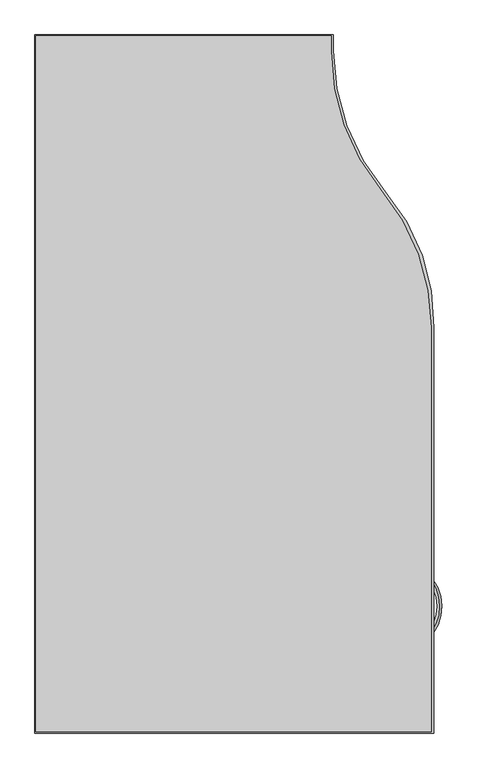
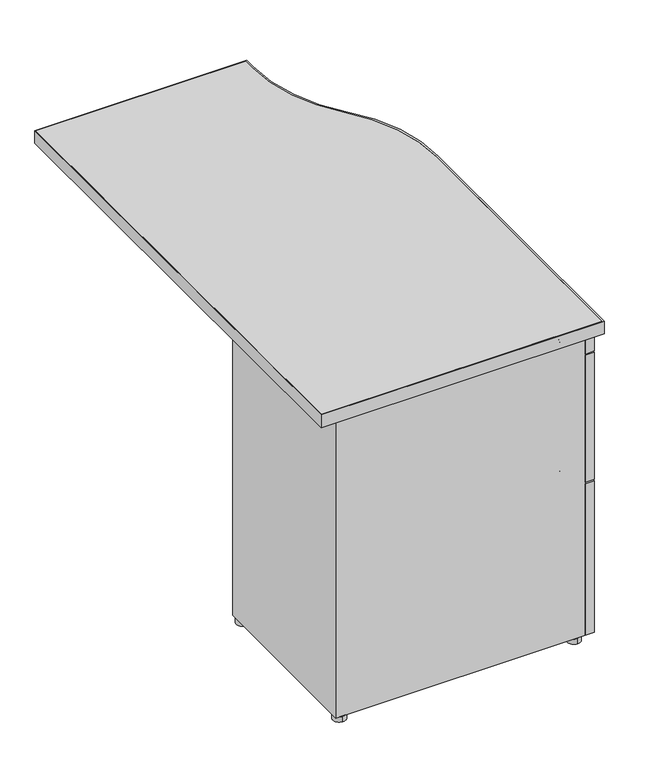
"""IFC4 building model written with IfcOpenShell, lengths in millimetres: furniture geometry, Steelcase - Kick Freestanding - Desk - Single Pedestal Transition Return : 18D x 42W - Left - File/File."""

from ifc_helpers import new_model, si_unit, point, frame, frame_2d, origin, origin_with_axes, place, context, project, spatial, polyline, circle_curve, ellipse_curve, trimmed, segment, composite_curve, outline, extrude, source, transform, mapped, element, save
from ifc_brep_helpers import plane_surface, cylinder_surface, revolved_surface, extruded_surface, advanced_brep


def furniture_2c419365(model_context):
    return source(origin(), model_context, "Body", "SolidModel", [
        advanced_brep(
        [(2760.5907209, -1469.2132511, 586.4818798), (2760.5907209, -1469.2132511, 569.2783404), (2759.9247042, -1370.0632386, 586.4818798), (2759.9247042, -1370.0632386, 569.2783404)],
        [
            (0, 1, ellipse_curve(frame((2760.5907209, -1469.2132511, 577.8801101), z_axis=(-0.7327226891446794, -0.6805273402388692, 0.0), x_axis=(0.0, 0.0, -1.0)), 8.6017697, 3.6448177)),
            (1, 0, ellipse_curve(frame((2760.5907209, -1469.2132511, 577.8801101), z_axis=(-0.7327226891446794, -0.6805273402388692, 0.0), x_axis=(0.0, 0.0, -1.0)), 8.6017697, 3.6448177)),
            (2, 3, ellipse_curve(frame((2759.9247042, -1370.0632386, 577.8801101), z_axis=(-0.7417987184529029, 0.670622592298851, 0.0), x_axis=(0.0, 0.0, -1.0)), 8.6017697, 3.6448177)),
            (3, 2, ellipse_curve(frame((2759.9247042, -1370.0632386, 577.8801101), z_axis=(-0.7417987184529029, 0.670622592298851, 0.0), x_axis=(0.0, 0.0, -1.0)), 8.6017697, 3.6448177)),
            (3, 1, circle_curve(frame((2714.8305889, -1419.9433908, 569.2783404), z_axis=(0.0, 0.0, -1.0), x_axis=(0.6805273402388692, -0.7327226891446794, 0.0)), 67.2421655)),
            (0, 2, circle_curve(frame((2714.8305889, -1419.9433908, 586.4818798), z_axis=(0.0, 0.0, 1.0), x_axis=(0.6805273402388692, -0.7327226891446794, 0.0)), 67.2421655)),
        ],
        [
            plane_surface(frame((2761.3542952, -1470.0353903, 0.0), z_axis=(-0.7327226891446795, -0.6805273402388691, 0.0), x_axis=(0.0, 0.0, 1.0))),
            plane_surface(frame((2760.6771651, -1369.2309157, 0.0), z_axis=(-0.7417987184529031, 0.6706225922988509, 0.0), x_axis=(0.0, 0.0, 1.0))),
            revolved_surface(trimmed(ellipse_curve(frame((2760.5907209, -1469.2132511, 577.8801101), z_axis=(-0.7327226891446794, -0.6805273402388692, 0.0), x_axis=(0.0, 0.0, -1.0)), 8.6017697, 3.6448177), [point((2760.5907209, -1469.2132511, 586.4818798))], [point((2760.5907209, -1469.2132511, 569.2783404))], True, "CARTESIAN"), (2714.8305889, -1419.9433908, 0.0), (0.0, 0.0, 1.0)),
            revolved_surface(trimmed(ellipse_curve(frame((2760.5907209, -1469.2132511, 577.8801101), z_axis=(-0.7327226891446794, -0.6805273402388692, 0.0), x_axis=(0.0, 0.0, -1.0)), 8.6017697, 3.6448177), [point((2760.5907209, -1469.2132511, 569.2783404))], [point((2760.5907209, -1469.2132511, 586.4818798))], True, "CARTESIAN"), (2714.8305889, -1419.9433908, 0.0), (0.0, 0.0, 1.0)),
        ],
        [
            (0, [[1, 2]]),
            (1, [[3, 4]]),
            (2, [[5, -1, 6, -4]]),
            (3, [[-6, -2, -5, -3]]),
        ],
    ),
        advanced_brep(
        [(2760.5907209, -1469.2132511, 293.5881298), (2760.5907209, -1469.2132511, 276.3845904), (2759.9247042, -1370.0632386, 293.5881298), (2759.9247042, -1370.0632386, 276.3845904)],
        [
            (0, 1, ellipse_curve(frame((2760.5907209, -1469.2132511, 284.9863601), z_axis=(-0.7327226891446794, -0.6805273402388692, 0.0), x_axis=(0.0, 0.0, -1.0)), 8.6017697, 3.6448177)),
            (1, 0, ellipse_curve(frame((2760.5907209, -1469.2132511, 284.9863601), z_axis=(-0.7327226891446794, -0.6805273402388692, 0.0), x_axis=(0.0, 0.0, -1.0)), 8.6017697, 3.6448177)),
            (2, 3, ellipse_curve(frame((2759.9247042, -1370.0632386, 284.9863601), z_axis=(-0.7417987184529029, 0.670622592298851, 0.0), x_axis=(0.0, 0.0, -1.0)), 8.6017697, 3.6448177)),
            (3, 2, ellipse_curve(frame((2759.9247042, -1370.0632386, 284.9863601), z_axis=(-0.7417987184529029, 0.670622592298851, 0.0), x_axis=(0.0, 0.0, -1.0)), 8.6017697, 3.6448177)),
            (3, 1, circle_curve(frame((2714.8305889, -1419.9433908, 276.3845904), z_axis=(0.0, 0.0, -1.0), x_axis=(0.6805273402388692, -0.7327226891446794, 0.0)), 67.2421655)),
            (0, 2, circle_curve(frame((2714.8305889, -1419.9433908, 293.5881298), z_axis=(0.0, 0.0, 1.0), x_axis=(0.6805273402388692, -0.7327226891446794, 0.0)), 67.2421655)),
        ],
        [
            plane_surface(frame((2761.3542952, -1470.0353903, 0.0), z_axis=(-0.7327226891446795, -0.6805273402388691, 0.0), x_axis=(0.0, 0.0, 1.0))),
            plane_surface(frame((2760.6771651, -1369.2309157, 0.0), z_axis=(-0.7417987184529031, 0.6706225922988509, 0.0), x_axis=(0.0, 0.0, 1.0))),
            revolved_surface(trimmed(ellipse_curve(frame((2760.5907209, -1469.2132511, 284.9863601), z_axis=(-0.7327226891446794, -0.6805273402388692, 0.0), x_axis=(0.0, 0.0, -1.0)), 8.6017697, 3.6448177), [point((2760.5907209, -1469.2132511, 293.5881298))], [point((2760.5907209, -1469.2132511, 276.3845904))], True, "CARTESIAN"), (2714.8305889, -1419.9433908, 0.0), (0.0, 0.0, 1.0)),
            revolved_surface(trimmed(ellipse_curve(frame((2760.5907209, -1469.2132511, 284.9863601), z_axis=(-0.7327226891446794, -0.6805273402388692, 0.0), x_axis=(0.0, 0.0, -1.0)), 8.6017697, 3.6448177), [point((2760.5907209, -1469.2132511, 276.3845904))], [point((2760.5907209, -1469.2132511, 293.5881298))], True, "CARTESIAN"), (2714.8305889, -1419.9433908, 0.0), (0.0, 0.0, 1.0)),
        ],
        [
            (0, [[1, 2]]),
            (1, [[3, 4]]),
            (2, [[5, -1, 6, -4]]),
            (3, [[-6, -2, -5, -3]]),
        ],
    ),
        advanced_brep(
        [(2762.8455764, -1276.6380273, 671.1566635), (2762.8455764, -1256.3180273, 671.1566635), (2759.7468248, -1276.6380273, 671.1566635), (2759.7468248, -1256.3180273, 671.1566635)],
        [
            (0, 1, circle_curve(frame((2762.8455764, -1266.4780273, 671.1566635), z_axis=(1.0, 0.0, 0.0), x_axis=(0.0, 1.0, 0.0)), 10.16)),
            (1, 0, circle_curve(frame((2762.8455764, -1266.4780273, 671.1566635), z_axis=(1.0, 0.0, 0.0), x_axis=(0.0, 1.0, 0.0)), 10.16)),
            (2, 3, circle_curve(frame((2759.7468248, -1266.4780273, 671.1566635), z_axis=(-1.0, 0.0, 0.0), x_axis=(0.0, 1.0, 0.0)), 10.16)),
            (3, 2, circle_curve(frame((2759.7468248, -1266.4780273, 671.1566635), z_axis=(-1.0, 0.0, 0.0), x_axis=(0.0, 1.0, 0.0)), 10.16)),
            (0, 2),
            (3, 1),
        ],
        [
            plane_surface(frame((2762.8455764, -1256.3180273, 671.1566635), z_axis=(1.0, 0.0, 0.0), x_axis=(0.0, 0.0, 1.0))),
            plane_surface(frame((2759.7468248, -1256.3180273, 671.1566635), z_axis=(-1.0, 0.0, 0.0), x_axis=(0.0, 0.0, -1.0))),
            cylinder_surface(frame((2759.7468248, -1266.4780273, 671.1566635), z_axis=(1.0, 0.0, 0.0), x_axis=(0.0, 1.0, 0.0)), 10.16),
        ],
        [
            (0, [[1, 2]]),
            (1, [[3, 4]]),
            (2, [[-1, 5, -4, 6]]),
            (2, [[-2, -6, -3, -5]]),
        ],
    ),
        advanced_brep(
        [(2762.8455764, -1467.8140492, 589.4466513), (2762.8455764, -1467.8140492, 566.5866513), (2759.7468248, -1467.8140492, 589.4466513), (2759.7468248, -1467.8140492, 566.5866513)],
        [
            (0, 1, ellipse_curve(frame((2762.8455764, -1467.8140492, 578.0166513), z_axis=(1.0, 0.0, 0.0), x_axis=(0.0, 0.0, -1.0)), 11.43, 8.0054005)),
            (1, 0, ellipse_curve(frame((2762.8455764, -1467.8140492, 578.0166513), z_axis=(1.0, 0.0, 0.0), x_axis=(0.0, 0.0, -1.0)), 11.43, 8.0054005)),
            (2, 3, ellipse_curve(frame((2759.7468248, -1467.8140492, 578.0166513), z_axis=(-1.0, 0.0, 0.0), x_axis=(0.0, 0.0, -1.0)), 11.43, 8.0054005)),
            (3, 2, ellipse_curve(frame((2759.7468248, -1467.8140492, 578.0166513), z_axis=(-1.0, 0.0, 0.0), x_axis=(0.0, 0.0, -1.0)), 11.43, 8.0054005)),
            (0, 2),
            (3, 1),
        ],
        [
            plane_surface(frame((2762.8455764, -1256.3180273, 671.1566635), z_axis=(1.0, 0.0, 0.0), x_axis=(0.0, 0.0, 1.0))),
            plane_surface(frame((2759.7468248, -1256.3180273, 671.1566635), z_axis=(-1.0, 0.0, 0.0), x_axis=(0.0, 0.0, -1.0))),
            extruded_surface(trimmed(ellipse_curve(frame((2755.7590248, -1467.8140492, 578.0166513), z_axis=(1.0, 0.0, 0.0), x_axis=(0.0, 0.0, -1.0)), 11.43, 8.0054005), [point((2755.7590248, -1467.8140492, 589.4466513))], [point((2755.7590248, -1467.8140492, 566.5866513))], True, "CARTESIAN"), (3.098751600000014, 0.0, 0.0), 3.098751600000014),
            extruded_surface(trimmed(ellipse_curve(frame((2755.7590248, -1467.8140492, 578.0166513), z_axis=(1.0, 0.0, 0.0), x_axis=(0.0, 0.0, -1.0)), 11.43, 8.0054005), [point((2755.7590248, -1467.8140492, 566.5866513))], [point((2755.7590248, -1467.8140492, 589.4466513))], True, "CARTESIAN"), (3.098751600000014, 0.0, 0.0), 3.098751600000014),
        ],
        [
            (0, [[1, 2]]),
            (1, [[3, 4]]),
            (2, [[-1, 5, -4, 6]]),
            (3, [[-2, -6, -3, -5]]),
        ],
    ),
        advanced_brep(
        [(2762.8455764, -1370.4852323, 589.4466513), (2762.8455764, -1370.4852323, 566.5866513), (2759.7468248, -1370.4852323, 589.4466513), (2759.7468248, -1370.4852323, 566.5866513)],
        [
            (0, 1, ellipse_curve(frame((2762.8455764, -1370.4852323, 578.0166513), z_axis=(1.0, 0.0, 0.0), x_axis=(0.0, 0.0, -1.0)), 11.43, 8.0054005)),
            (1, 0, ellipse_curve(frame((2762.8455764, -1370.4852323, 578.0166513), z_axis=(1.0, 0.0, 0.0), x_axis=(0.0, 0.0, -1.0)), 11.43, 8.0054005)),
            (2, 3, ellipse_curve(frame((2759.7468248, -1370.4852323, 578.0166513), z_axis=(-1.0, 0.0, 0.0), x_axis=(0.0, 0.0, -1.0)), 11.43, 8.0054005)),
            (3, 2, ellipse_curve(frame((2759.7468248, -1370.4852323, 578.0166513), z_axis=(-1.0, 0.0, 0.0), x_axis=(0.0, 0.0, -1.0)), 11.43, 8.0054005)),
            (0, 2),
            (3, 1),
        ],
        [
            plane_surface(frame((2762.8455764, -1256.3180273, 671.1566635), z_axis=(1.0, 0.0, 0.0), x_axis=(0.0, 0.0, 1.0))),
            plane_surface(frame((2759.7468248, -1256.3180273, 671.1566635), z_axis=(-1.0, 0.0, 0.0), x_axis=(0.0, 0.0, -1.0))),
            extruded_surface(trimmed(ellipse_curve(frame((2755.7590248, -1370.4852323, 578.0166513), z_axis=(1.0, 0.0, 0.0), x_axis=(0.0, 0.0, -1.0)), 11.43, 8.0054005), [point((2755.7590248, -1370.4852323, 589.4466513))], [point((2755.7590248, -1370.4852323, 566.5866513))], True, "CARTESIAN"), (3.098751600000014, 0.0, 0.0), 3.098751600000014),
            extruded_surface(trimmed(ellipse_curve(frame((2755.7590248, -1370.4852323, 578.0166513), z_axis=(1.0, 0.0, 0.0), x_axis=(0.0, 0.0, -1.0)), 11.43, 8.0054005), [point((2755.7590248, -1370.4852323, 566.5866513))], [point((2755.7590248, -1370.4852323, 589.4466513))], True, "CARTESIAN"), (3.098751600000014, 0.0, 0.0), 3.098751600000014),
        ],
        [
            (0, [[1, 2]]),
            (1, [[3, 4]]),
            (2, [[-1, 5, -4, 6]]),
            (3, [[-2, -6, -3, -5]]),
        ],
    ),
        advanced_brep(
        [(2762.8455764, -1466.5790775, 296.5864566), (2762.8455764, -1466.5790775, 273.7264566), (2759.7468248, -1466.5790775, 296.5864566), (2759.7468248, -1466.5790775, 273.7264566)],
        [
            (0, 1, ellipse_curve(frame((2762.8455764, -1466.5790775, 285.1564566), z_axis=(1.0, 0.0, 0.0), x_axis=(0.0, 0.0, -1.0)), 11.43, 8.0054005)),
            (1, 0, ellipse_curve(frame((2762.8455764, -1466.5790775, 285.1564566), z_axis=(1.0, 0.0, 0.0), x_axis=(0.0, 0.0, -1.0)), 11.43, 8.0054005)),
            (2, 3, ellipse_curve(frame((2759.7468248, -1466.5790775, 285.1564566), z_axis=(-1.0, 0.0, 0.0), x_axis=(0.0, 0.0, -1.0)), 11.43, 8.0054005)),
            (3, 2, ellipse_curve(frame((2759.7468248, -1466.5790775, 285.1564566), z_axis=(-1.0, 0.0, 0.0), x_axis=(0.0, 0.0, -1.0)), 11.43, 8.0054005)),
            (0, 2),
            (3, 1),
        ],
        [
            plane_surface(frame((2762.8455764, -1256.3180273, 671.1566635), z_axis=(1.0, 0.0, 0.0), x_axis=(0.0, 0.0, 1.0))),
            plane_surface(frame((2759.7468248, -1256.3180273, 671.1566635), z_axis=(-1.0, 0.0, 0.0), x_axis=(0.0, 0.0, -1.0))),
            extruded_surface(trimmed(ellipse_curve(frame((2755.7590248, -1466.5790775, 285.1564566), z_axis=(1.0, 0.0, 0.0), x_axis=(0.0, 0.0, -1.0)), 11.43, 8.0054005), [point((2755.7590248, -1466.5790775, 296.5864566))], [point((2755.7590248, -1466.5790775, 273.7264566))], True, "CARTESIAN"), (3.098751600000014, 0.0, 0.0), 3.098751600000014),
            extruded_surface(trimmed(ellipse_curve(frame((2755.7590248, -1466.5790775, 285.1564566), z_axis=(1.0, 0.0, 0.0), x_axis=(0.0, 0.0, -1.0)), 11.43, 8.0054005), [point((2755.7590248, -1466.5790775, 273.7264566))], [point((2755.7590248, -1466.5790775, 296.5864566))], True, "CARTESIAN"), (3.098751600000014, 0.0, 0.0), 3.098751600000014),
        ],
        [
            (0, [[1, 2]]),
            (1, [[3, 4]]),
            (2, [[-1, 5, -4, 6]]),
            (3, [[-2, -6, -3, -5]]),
        ],
    ),
        advanced_brep(
        [(2762.8455764, -1369.2502606, 296.5864566), (2762.8455764, -1369.2502606, 273.7264566), (2759.7468248, -1369.2502606, 296.5864566), (2759.7468248, -1369.2502606, 273.7264566)],
        [
            (0, 1, ellipse_curve(frame((2762.8455764, -1369.2502606, 285.1564566), z_axis=(1.0, 0.0, 0.0), x_axis=(0.0, 0.0, -1.0)), 11.43, 8.0054005)),
            (1, 0, ellipse_curve(frame((2762.8455764, -1369.2502606, 285.1564566), z_axis=(1.0, 0.0, 0.0), x_axis=(0.0, 0.0, -1.0)), 11.43, 8.0054005)),
            (2, 3, ellipse_curve(frame((2759.7468248, -1369.2502606, 285.1564566), z_axis=(-1.0, 0.0, 0.0), x_axis=(0.0, 0.0, -1.0)), 11.43, 8.0054005)),
            (3, 2, ellipse_curve(frame((2759.7468248, -1369.2502606, 285.1564566), z_axis=(-1.0, 0.0, 0.0), x_axis=(0.0, 0.0, -1.0)), 11.43, 8.0054005)),
            (0, 2),
            (3, 1),
        ],
        [
            plane_surface(frame((2762.8455764, -1256.3180273, 671.1566635), z_axis=(1.0, 0.0, 0.0), x_axis=(0.0, 0.0, 1.0))),
            plane_surface(frame((2759.7468248, -1256.3180273, 671.1566635), z_axis=(-1.0, 0.0, 0.0), x_axis=(0.0, 0.0, -1.0))),
            extruded_surface(trimmed(ellipse_curve(frame((2755.7590248, -1369.2502606, 285.1564566), z_axis=(1.0, 0.0, 0.0), x_axis=(0.0, 0.0, -1.0)), 11.43, 8.0054005), [point((2755.7590248, -1369.2502606, 296.5864566))], [point((2755.7590248, -1369.2502606, 273.7264566))], True, "CARTESIAN"), (3.098751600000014, 0.0, 0.0), 3.098751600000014),
            extruded_surface(trimmed(ellipse_curve(frame((2755.7590248, -1369.2502606, 285.1564566), z_axis=(1.0, 0.0, 0.0), x_axis=(0.0, 0.0, -1.0)), 11.43, 8.0054005), [point((2755.7590248, -1369.2502606, 273.7264566))], [point((2755.7590248, -1369.2502606, 296.5864566))], True, "CARTESIAN"), (3.098751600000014, 0.0, 0.0), 3.098751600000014),
        ],
        [
            (0, [[1, 2]]),
            (1, [[3, 4]]),
            (2, [[-1, 5, -4, 6]]),
            (3, [[-2, -6, -3, -5]]),
        ],
    ),
        extrude(outline(polyline([(2759.7468248, -1215.3776054), (2759.7468248, -1600.3145982), (2739.8077764, -1600.3145982), (2739.8077764, -1215.3776054), (2759.7468248, -1215.3776054)])), frame((0.0, 0.0, 360.6545895), z_axis=(0.0, 0.0, 1.0), x_axis=(1.0, 0.0, 0.0)), (0.0, 0.0, 1.0), 288.9250242),
        extrude(outline(polyline([(2759.7468248, -1215.3776054), (2759.7468248, -1600.3145982), (2739.8077764, -1600.3145982), (2739.8077764, -1215.3776054), (2759.7468248, -1215.3776054)])), frame((0.0, 0.0, 12.7), z_axis=(0.0, 0.0, 1.0), x_axis=(1.0, 0.0, 0.0)), (0.0, 0.0, 1.0), 344.7796016),
        extrude(outline(polyline([(2759.7468248, -1215.3776054), (2759.7468248, -1600.3145982), (2739.8077764, -1600.3145982), (2739.8077764, -1215.3776054), (2759.7468248, -1215.3776054)])), frame((0.0, 0.0, 652.7545653), z_axis=(0.0, 0.0, 1.0), x_axis=(1.0, 0.0, 0.0)), (0.0, 0.0, 1.0), 40.6400339),
        extrude(outline(composite_curve([segment(trimmed(circle_curve(frame_2d((2217.7074425, -1587.7382652)), 13.97), [point((2217.7074425, -1601.7082652))], [point((2217.7074425, -1573.7682652))], False, "CARTESIAN"), True, "CONTINUOUS"), segment(trimmed(circle_curve(frame_2d((2217.7074425, -1587.7382652)), 13.97), [point((2217.7074425, -1573.7682652))], [point((2217.7074425, -1601.7082652))], False, "CARTESIAN"), True, "CONTINUOUS")], self_intersect=False)), origin_with_axes(), (0.0, 0.0, 1.0), 12.446),
        extrude(outline(composite_curve([segment(trimmed(circle_curve(frame_2d((2722.6594425, -1587.7382652)), 13.97), [point((2722.6594425, -1601.7082652))], [point((2722.6594425, -1573.7682652))], False, "CARTESIAN"), True, "CONTINUOUS"), segment(trimmed(circle_curve(frame_2d((2722.6594425, -1587.7382652)), 13.97), [point((2722.6594425, -1573.7682652))], [point((2722.6594425, -1601.7082652))], False, "CARTESIAN"), True, "CONTINUOUS")], self_intersect=False)), origin_with_axes(), (0.0, 0.0, 1.0), 12.446),
        extrude(outline(composite_curve([segment(trimmed(circle_curve(frame_2d((2217.7074425, -1228.0776054)), 13.97), [point((2217.7074425, -1242.0476054))], [point((2217.7074425, -1214.1076054))], False, "CARTESIAN"), True, "CONTINUOUS"), segment(trimmed(circle_curve(frame_2d((2217.7074425, -1228.0776054)), 13.97), [point((2217.7074425, -1214.1076054))], [point((2217.7074425, -1242.0476054))], False, "CARTESIAN"), True, "CONTINUOUS")], self_intersect=False)), origin_with_axes(), (0.0, 0.0, 1.0), 12.446),
        extrude(outline(composite_curve([segment(trimmed(circle_curve(frame_2d((2723.4604252, -1228.0776054)), 12.7), [point((2723.4604252, -1240.7776054))], [point((2723.4604252, -1215.3776054))], False, "CARTESIAN"), True, "CONTINUOUS"), segment(trimmed(circle_curve(frame_2d((2723.4604252, -1228.0776054)), 12.7), [point((2723.4604252, -1215.3776054))], [point((2723.4604252, -1240.7776054))], False, "CARTESIAN"), True, "CONTINUOUS")], self_intersect=False)), origin_with_axes(), (0.0, 0.0, 1.0), 12.446),
        extrude(outline(polyline([(2203.2328248, -1215.3776054), (2739.8077764, -1215.3776054), (2739.8077764, -1600.3145982), (2203.2328248, -1600.3145982), (2203.2328248, -1215.3776054)]), holes=[polyline([(2228.6328241, -1235.2149846), (2228.6328241, -1580.4771996), (2719.2338142, -1580.4771996), (2719.2338142, -1235.2149846), (2228.6328241, -1235.2149846)])]), frame((0.0, 0.0, 12.446), z_axis=(0.0, 0.0, 1.0), x_axis=(1.0, 0.0, 0.0)), (0.0, 0.0, 1.0), 682.498),
        extrude(outline(composite_curve([segment(polyline([(2616.8176592, -547.8051152), (2616.8176592, -572.1320079)]), True, "CONTINUOUS"), segment(trimmed(circle_curve(frame_2d((2941.6463505, -574.5942763)), 324.8380233), [point((2616.8176592, -572.1320079))], [point((2692.5587903, -783.1011797))], True, "CARTESIAN"), True, "CONTINUOUS"), segment(trimmed(circle_curve(frame_2d((2440.4841513, -994.1085152)), 328.7335079), [point((2692.5587903, -783.1011797))], [point((2769.2176592, -994.1085152))], False, "CARTESIAN"), True, "CONTINUOUS"), segment(polyline([(2769.2176592, -994.1085152), (2769.2176592, -1611.8619332), (2164.8500425, -1611.8619332), (2164.8500425, -547.8051152), (2616.8176592, -547.8051152)]), True, "CONTINUOUS")], self_intersect=False)), frame((0.0, 0.0, 694.944), z_axis=(0.0, 0.0, 1.0), x_axis=(1.0, 0.0, 0.0)), (0.0, 0.0, 1.0), 28.956),
        extrude(outline(composite_curve([segment(polyline([(2619.7894255, -546.8145152), (2619.7894255, -571.0836731)]), True, "CONTINUOUS"), segment(trimmed(circle_curve(frame_2d((2951.3460478, -571.0836731)), 331.5566223), [point((2619.7894255, -571.0836731))], [point((2699.261298, -786.4509703))], True, "CARTESIAN"), True, "CONTINUOUS"), segment(trimmed(circle_curve(frame_2d((2463.6949436, -987.7058619)), 309.8306613), [point((2699.261298, -786.4509703))], [point((2773.4594425, -994.1085152))], False, "CARTESIAN"), True, "CONTINUOUS"), segment(polyline([(2773.4594425, -994.1085152), (2773.4594425, -1613.6145152), (2163.8594425, -1613.6145152), (2163.8594425, -546.8145152), (2619.7894255, -546.8145152)]), True, "CONTINUOUS")], self_intersect=False), holes=[composite_curve([segment(polyline([(2616.8176592, -547.8051152), (2164.8500425, -547.8051152), (2164.8500425, -1611.8619332), (2769.2176592, -1611.8619332), (2769.2176592, -994.1085152)]), True, "CONTINUOUS"), segment(trimmed(circle_curve(frame_2d((2440.4841513, -994.1085152)), 328.7335079), [point((2769.2176592, -994.1085152))], [point((2692.5587903, -783.1011797))], True, "CARTESIAN"), True, "CONTINUOUS"), segment(trimmed(circle_curve(frame_2d((2941.6463505, -574.5942763)), 324.8380233), [point((2692.5587903, -783.1011797))], [point((2616.8176592, -572.1320079))], False, "CARTESIAN"), True, "CONTINUOUS"), segment(polyline([(2616.8176592, -572.1320079), (2616.8176592, -547.8051152)]), True, "CONTINUOUS")], self_intersect=False)]), frame((0.0, 0.0, 694.944), z_axis=(0.0, 0.0, 1.0), x_axis=(1.0, 0.0, 0.0)), (0.0, 0.0, 1.0), 28.956),
    ])


if __name__ == "__main__":
    model = new_model("IFC4")
    model_context = context("Model", 3, world=origin())
    ifc_project = project(units=[si_unit("LENGTHUNIT", "METRE", prefix="MILLI")], contexts=[model_context])
    site = spatial("IfcSite", under=ifc_project)
    building = spatial("IfcBuilding", under=site)
    placement = place(None, origin())
    furniture_shape = furniture_2c419365(model_context)
    element("IfcFurniture", 1, ObjectType="Steelcase - Kick Freestanding - Desk - Single Pedestal Transition Return : 18D x 42W - Left - File/File", at=placement, inside=building, context=model_context, shape_type="MappedRepresentation", body=[
        mapped(furniture_shape, transform((0.0, 0.0, 0.0), x_axis=(1.0, 0.0, 0.0), y_axis=(0.0, 1.0, 0.0), z_axis=(0.0, 0.0, 1.0))),
    ])
    save(model, "model.ifc")
